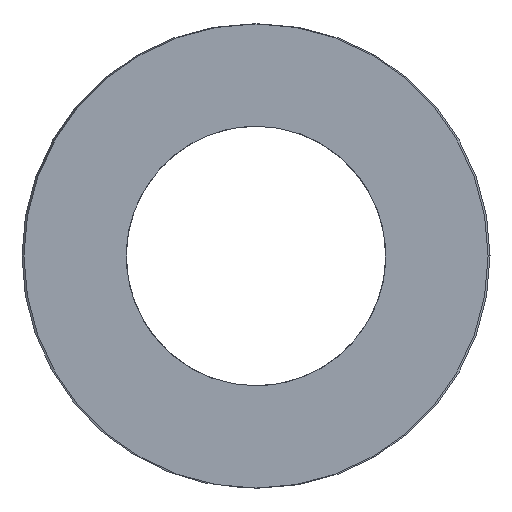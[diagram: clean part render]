
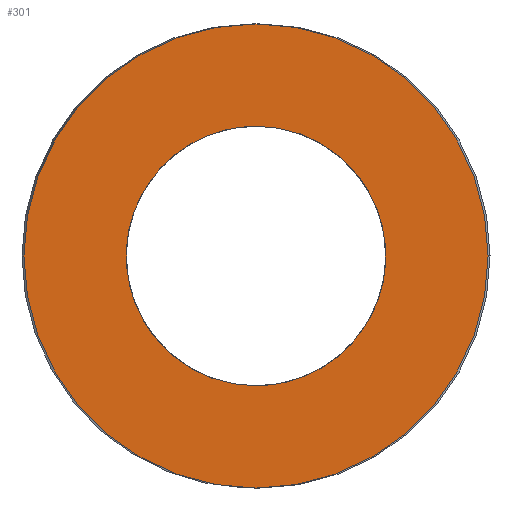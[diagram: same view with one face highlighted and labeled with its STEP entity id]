
A CAD part, left-side view. The second image highlights one B-rep face of the part: STEP entity #301.
In plain terms, the highlighted planar face has unit normal (-1, 0, 0).
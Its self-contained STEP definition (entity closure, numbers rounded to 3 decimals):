
#63=CARTESIAN_POINT('Vertex',(0.,12.25,0.)) ;
#77=CARTESIAN_POINT('Vertex',(0.,-12.25,0.)) ;
#80=CARTESIAN_POINT('Axis2P3D Location',(0.,0.,0.)) ;
#97=CARTESIAN_POINT('Axis2P3D Location',(0.,0.,0.)) ;
#232=CARTESIAN_POINT('Axis2P3D Location',(0.,6.125,0.)) ;
#242=CARTESIAN_POINT('Control Point',(0.,0.,-6.85)) ;
#243=CARTESIAN_POINT('Control Point',(0.,0.641,-6.85)) ;
#244=CARTESIAN_POINT('Control Point',(0.,1.282,-6.775)) ;
#245=CARTESIAN_POINT('Control Point',(0.,1.912,-6.625)) ;
#246=CARTESIAN_POINT('Control Point',(0.,3.124,-6.181)) ;
#247=CARTESIAN_POINT('Control Point',(0.,4.2,-5.468)) ;
#248=CARTESIAN_POINT('Control Point',(0.,4.694,-5.051)) ;
#249=CARTESIAN_POINT('Control Point',(0.,5.576,-4.107)) ;
#250=CARTESIAN_POINT('Control Point',(0.,6.215,-2.986)) ;
#251=CARTESIAN_POINT('Control Point',(0.,6.468,-2.39)) ;
#252=CARTESIAN_POINT('Control Point',(0.,6.829,-1.151)) ;
#253=CARTESIAN_POINT('Control Point',(0.,6.894,0.139)) ;
#254=CARTESIAN_POINT('Control Point',(0.,6.851,0.784)) ;
#255=CARTESIAN_POINT('Control Point',(0.,6.614,2.053)) ;
#256=CARTESIAN_POINT('Control Point',(0.,6.09,3.233)) ;
#257=CARTESIAN_POINT('Control Point',(0.,5.76,3.79)) ;
#258=CARTESIAN_POINT('Control Point',(0.,4.977,4.816)) ;
#259=CARTESIAN_POINT('Control Point',(0.,3.977,5.633)) ;
#260=CARTESIAN_POINT('Control Point',(0.,3.432,5.981)) ;
#261=CARTESIAN_POINT('Control Point',(0.,2.436,6.462)) ;
#262=CARTESIAN_POINT('Control Point',(0.,1.368,6.735)) ;
#263=CARTESIAN_POINT('Control Point',(0.,0.915,6.812)) ;
#264=CARTESIAN_POINT('Control Point',(0.,0.457,6.85)) ;
#265=CARTESIAN_POINT('Control Point',(0.,0.,6.85)) ;
#266=CARTESIAN_POINT('Vertex',(0.,0.,-6.85)) ;
#268=CARTESIAN_POINT('Vertex',(0.,0.,6.85)) ;
#272=CARTESIAN_POINT('Control Point',(0.,0.,6.85)) ;
#273=CARTESIAN_POINT('Control Point',(0.,-0.641,6.85)) ;
#274=CARTESIAN_POINT('Control Point',(0.,-1.282,6.775)) ;
#275=CARTESIAN_POINT('Control Point',(0.,-1.912,6.625)) ;
#276=CARTESIAN_POINT('Control Point',(0.,-3.124,6.181)) ;
#277=CARTESIAN_POINT('Control Point',(0.,-4.2,5.468)) ;
#278=CARTESIAN_POINT('Control Point',(0.,-4.694,5.051)) ;
#279=CARTESIAN_POINT('Control Point',(0.,-5.576,4.107)) ;
#280=CARTESIAN_POINT('Control Point',(0.,-6.215,2.986)) ;
#281=CARTESIAN_POINT('Control Point',(0.,-6.468,2.39)) ;
#282=CARTESIAN_POINT('Control Point',(0.,-6.829,1.151)) ;
#283=CARTESIAN_POINT('Control Point',(0.,-6.894,-0.139)) ;
#284=CARTESIAN_POINT('Control Point',(0.,-6.851,-0.784)) ;
#285=CARTESIAN_POINT('Control Point',(0.,-6.614,-2.053)) ;
#286=CARTESIAN_POINT('Control Point',(0.,-6.09,-3.233)) ;
#287=CARTESIAN_POINT('Control Point',(0.,-5.76,-3.79)) ;
#288=CARTESIAN_POINT('Control Point',(0.,-4.977,-4.816)) ;
#289=CARTESIAN_POINT('Control Point',(0.,-3.977,-5.633)) ;
#290=CARTESIAN_POINT('Control Point',(0.,-3.432,-5.981)) ;
#291=CARTESIAN_POINT('Control Point',(0.,-2.436,-6.462)) ;
#292=CARTESIAN_POINT('Control Point',(0.,-1.368,-6.735)) ;
#293=CARTESIAN_POINT('Control Point',(0.,-0.915,-6.812)) ;
#294=CARTESIAN_POINT('Control Point',(0.,-0.457,-6.85)) ;
#295=CARTESIAN_POINT('Control Point',(0.,0.,-6.85)) ;
#81=DIRECTION('Axis2P3D Direction',(1.,-0.,0.)) ;
#98=DIRECTION('Axis2P3D Direction',(1.,-0.,0.)) ;
#233=DIRECTION('Axis2P3D Direction',(-1.,0.,0.)) ;
#234=DIRECTION('Axis2P3D XDirection',(0.,1.,0.)) ;
#82=AXIS2_PLACEMENT_3D('Circle Axis2P3D',#80,#81,$) ;
#99=AXIS2_PLACEMENT_3D('Circle Axis2P3D',#97,#98,$) ;
#235=AXIS2_PLACEMENT_3D('Plane Axis2P3D',#232,#233,#234) ;
#238=ORIENTED_EDGE('',*,*,#84,.T.) ;
#239=ORIENTED_EDGE('',*,*,#101,.T.) ;
#298=ORIENTED_EDGE('',*,*,#270,.T.) ;
#299=ORIENTED_EDGE('',*,*,#296,.T.) ;
#300=FACE_BOUND('',#297,.T.) ;
#301=ADVANCED_FACE('392-B25-203',(#240,#300),#236,.T.) ;
#241=B_SPLINE_CURVE_WITH_KNOTS('',5,(#242,#243,#244,#245,#246,#247,#248,#249,#250,#251,#252,#253,#254,#255,#256,#257,#258,#259,#260,#261,#262,#263,#264,#265),.UNSPECIFIED.,.F.,.U.,(6,3,3,3,3,3,3,6),(0.,4.533,9.066,13.6,18.133,22.666,27.199,30.433),.UNSPECIFIED.) ;
#271=B_SPLINE_CURVE_WITH_KNOTS('',5,(#272,#273,#274,#275,#276,#277,#278,#279,#280,#281,#282,#283,#284,#285,#286,#287,#288,#289,#290,#291,#292,#293,#294,#295),.UNSPECIFIED.,.F.,.U.,(6,3,3,3,3,3,3,6),(0.,4.533,9.066,13.6,18.133,22.666,27.199,30.433),.UNSPECIFIED.) ;
#83=CIRCLE('generated circle',#82,12.25) ;
#100=CIRCLE('generated circle',#99,12.25) ;
#84=EDGE_CURVE('',#64,#78,#83,.F.) ;
#101=EDGE_CURVE('',#78,#64,#100,.F.) ;
#270=EDGE_CURVE('',#267,#269,#241,.T.) ;
#296=EDGE_CURVE('',#269,#267,#271,.T.) ;
#237=EDGE_LOOP('',(#238,#239)) ;
#297=EDGE_LOOP('',(#298,#299)) ;
#240=FACE_OUTER_BOUND('',#237,.T.) ;
#236=PLANE('Plane',#235) ;
#64=VERTEX_POINT('',#63) ;
#78=VERTEX_POINT('',#77) ;
#267=VERTEX_POINT('',#266) ;
#269=VERTEX_POINT('',#268) ;
